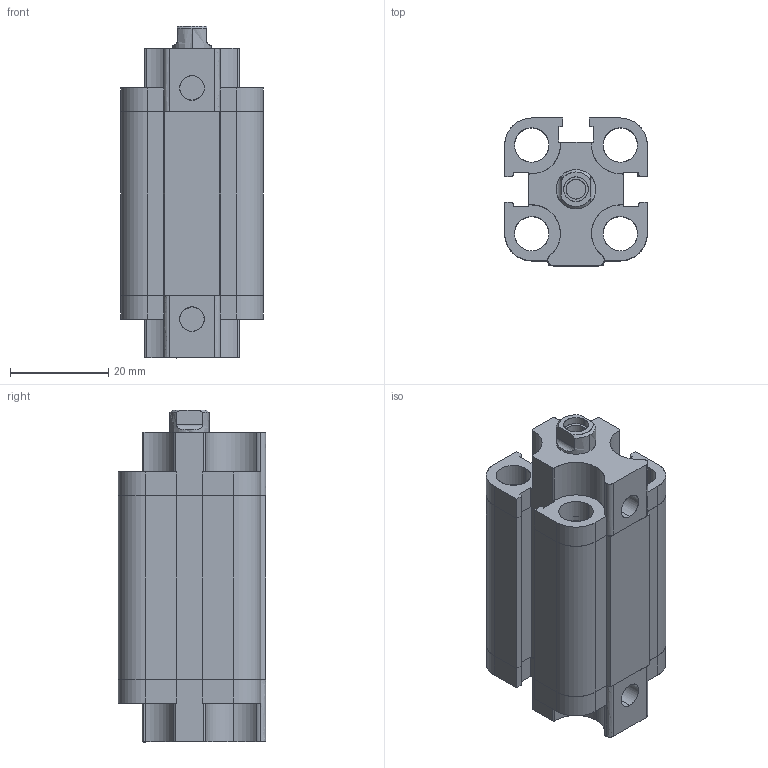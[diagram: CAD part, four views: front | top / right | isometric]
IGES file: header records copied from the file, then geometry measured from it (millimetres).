
Start section: SolidWorks IGES file using analytic representation for surfaces
Global section: file name: D:\ARICA 3D 禽Z軲LER\3D IGES\ADVU-S\ADVU-S 16\ADVU16X25-SCYLINDER.IGS,1; native system: 5HSolidWorks 2013; preprocessor: SolidWorks 2013; author: user; date: 150521.161608; units: millimetre
Bounding box: 29 x 30 x 67.5 mm (x, y, z)
Surface area: 21911.6 mm2 (no closed solid volume)
Topology: 0 solids, 0 shells, 315 faces, 4816 edges, 4816 vertices
Faces by surface type: revolution 171, bspline 144
